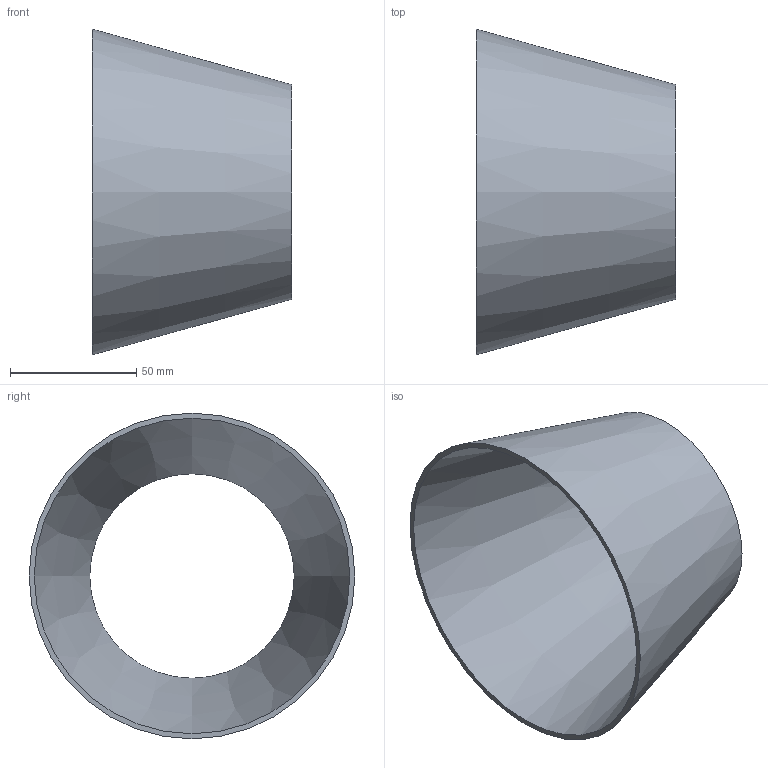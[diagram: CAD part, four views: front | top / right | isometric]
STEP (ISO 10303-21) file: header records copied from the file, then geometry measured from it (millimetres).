
FILE_DESCRIPTION(('FreeCAD Model'),'2;1');
FILE_NAME( '/home/martin/Documents/proyect/accesorios/stp/red-con_DN125-80.step', '2017-12-31T12:23:59',('Author'),(''), 'Open CASCADE STEP processor 6.8','FreeCAD','Unknown');
FILE_SCHEMA(('AUTOMOTIVE_DESIGN_CC2 { 1 2 10303 214 -1 1 5 4 }'));
Length unit declared in the file: millimetre
Products named in the file (1): red-con_DN125-80
Bounding box: 79 x 129 x 129 mm (x, y, z)
Volume: 52119 mm3; surface area: 55421.7 mm2
Topology: 1 solids, 1 shells, 4 faces, 6 edges, 4 vertices
Faces by surface type: cone 2, plane 2
Entity records: 191 total; most frequent: CARTESIAN_POINT 33, DIRECTION 26, ORIENTED_EDGE 12, PCURVE 12, DEFINITIONAL_REPRESENTATION 12, AXIS2_PLACEMENT_3D 9, CIRCLE 8, FACE_BOUND 6
